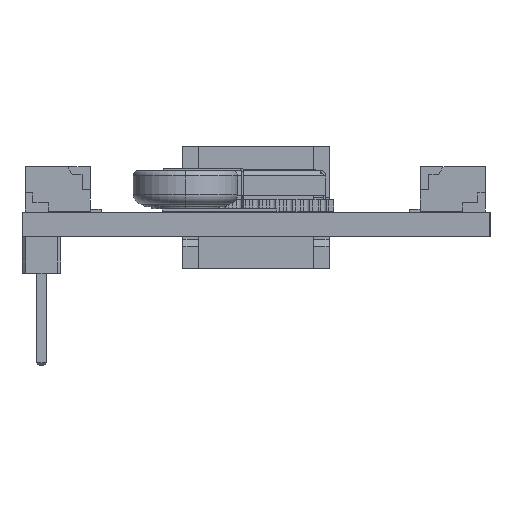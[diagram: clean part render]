
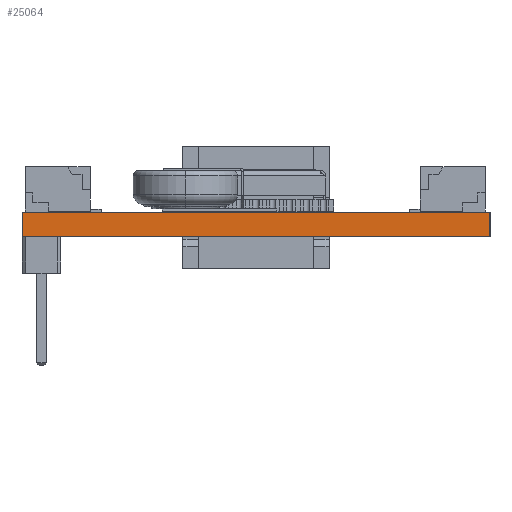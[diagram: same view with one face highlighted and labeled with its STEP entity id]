
A CAD part, left-side view. The second image highlights one B-rep face of the part: STEP entity #25064.
In plain terms, the highlighted planar face has unit normal (-1, 0, 0).
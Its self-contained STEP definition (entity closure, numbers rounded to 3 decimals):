
#25064 = ADVANCED_FACE('',(#25065),#25099,.T.);
#25065 = FACE_BOUND('',#25066,.T.);
#25066 = EDGE_LOOP('',(#25067,#25077,#25085,#25093));
#25067 = ORIENTED_EDGE('',*,*,#25068,.T.);
#25068 = EDGE_CURVE('',#25069,#25071,#25073,.T.);
#25069 = VERTEX_POINT('',#25070);
#25070 = CARTESIAN_POINT('',(119.38,-99.06,0.));
#25071 = VERTEX_POINT('',#25072);
#25072 = CARTESIAN_POINT('',(119.38,-99.06,1.6));
#25073 = LINE('',#25074,#25075);
#25074 = CARTESIAN_POINT('',(119.38,-99.06,0.));
#25075 = VECTOR('',#25076,1.);
#25076 = DIRECTION('',(0.,0.,1.));
#25077 = ORIENTED_EDGE('',*,*,#25078,.T.);
#25078 = EDGE_CURVE('',#25071,#25079,#25081,.T.);
#25079 = VERTEX_POINT('',#25080);
#25080 = CARTESIAN_POINT('',(119.38,-68.58,1.6));
#25081 = LINE('',#25082,#25083);
#25082 = CARTESIAN_POINT('',(119.38,-99.06,1.6));
#25083 = VECTOR('',#25084,1.);
#25084 = DIRECTION('',(0.,1.,0.));
#25085 = ORIENTED_EDGE('',*,*,#25086,.F.);
#25086 = EDGE_CURVE('',#25087,#25079,#25089,.T.);
#25087 = VERTEX_POINT('',#25088);
#25088 = CARTESIAN_POINT('',(119.38,-68.58,0.));
#25089 = LINE('',#25090,#25091);
#25090 = CARTESIAN_POINT('',(119.38,-68.58,0.));
#25091 = VECTOR('',#25092,1.);
#25092 = DIRECTION('',(0.,0.,1.));
#25093 = ORIENTED_EDGE('',*,*,#25094,.F.);
#25094 = EDGE_CURVE('',#25069,#25087,#25095,.T.);
#25095 = LINE('',#25096,#25097);
#25096 = CARTESIAN_POINT('',(119.38,-99.06,0.));
#25097 = VECTOR('',#25098,1.);
#25098 = DIRECTION('',(0.,1.,0.));
#25099 = PLANE('',#25100);
#25100 = AXIS2_PLACEMENT_3D('',#25101,#25102,#25103);
#25101 = CARTESIAN_POINT('',(119.38,-99.06,0.));
#25102 = DIRECTION('',(-1.,0.,0.));
#25103 = DIRECTION('',(0.,1.,0.));
